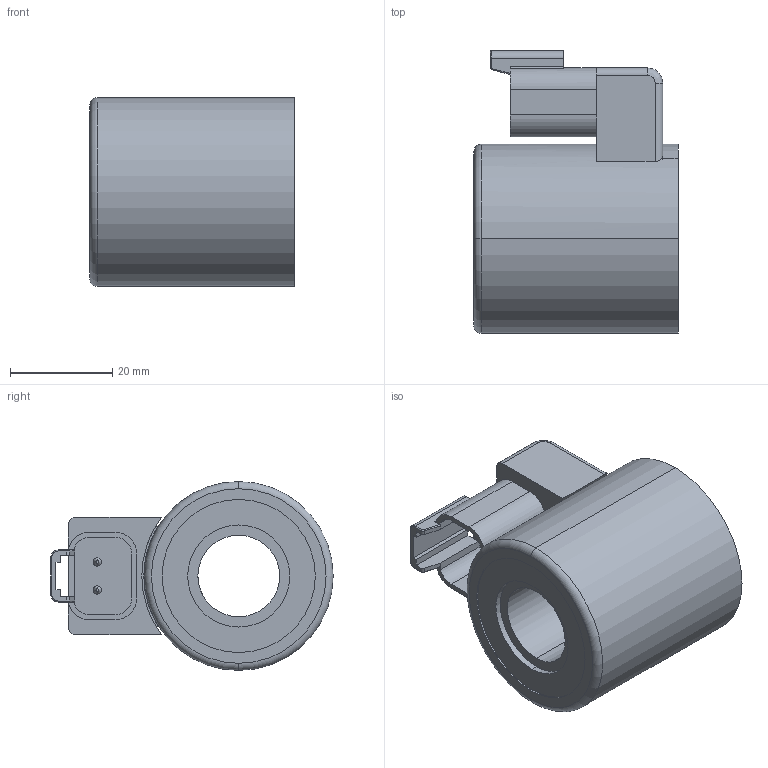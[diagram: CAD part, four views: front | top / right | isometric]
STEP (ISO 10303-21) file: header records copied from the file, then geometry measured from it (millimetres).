
FILE_DESCRIPTION (( 'STEP AP214' ), '1' );
FILE_NAME ('WGE37_16x40.STEP', '2014-05-28T10:03:23', ( '' ), ( '' ), 'SwSTEP 2.0', 'SolidWorks 2014', '' );
FILE_SCHEMA (( 'AUTOMOTIVE_DESIGN' ));
Length unit declared in the file: millimetre
Products named in the file (1): WGE37_16x40
Bounding box: 40 x 55.31 x 37 mm (x, y, z)
Volume: 37823.6 mm3; surface area: 12694.9 mm2
Topology: 3 solids, 3 shells, 109 faces, 285 edges, 182 vertices
Faces by surface type: plane 48, cylinder 46, cone 7, bspline 6, torus 2
Entity records: 4797 total; most frequent: CARTESIAN_POINT 820, DIRECTION 585, ORIENTED_EDGE 570, EDGE_CURVE 285, AXIS2_PLACEMENT_3D 213, VERTEX_POINT 182, VECTOR 159, LINE 159
